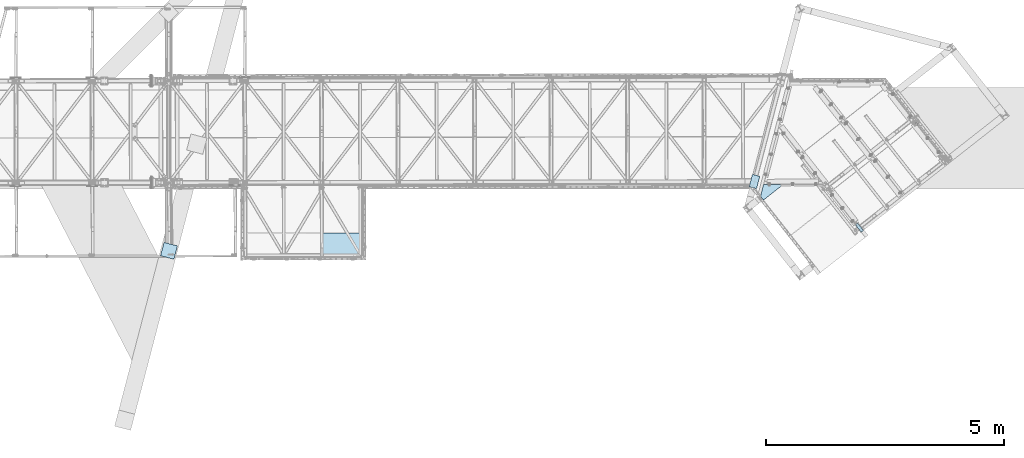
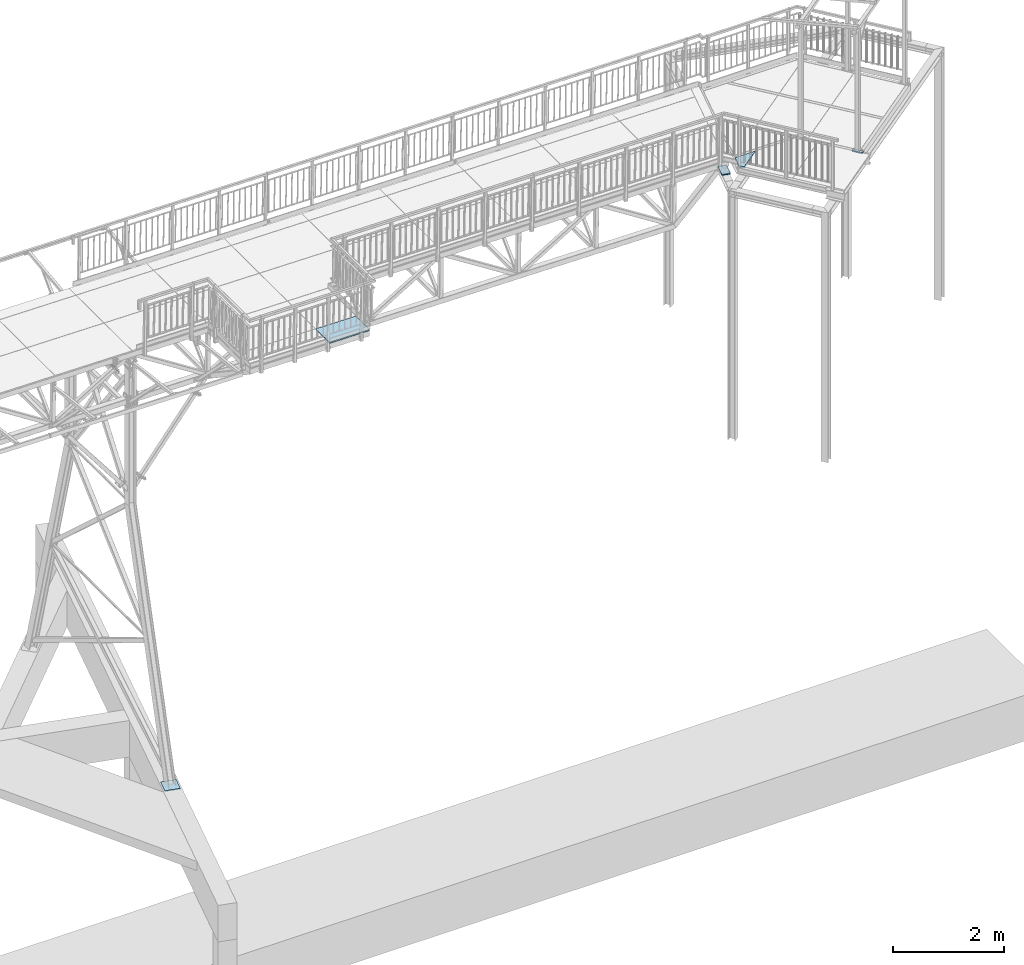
# One storey, part 29 of 169: 10 plates, 10 elements without a shape of their own.
"""IFC2X3 building model written with IfcOpenShell, lengths in millimetres."""

from ifc_helpers import new_model, si_unit, frame, origin_with_axes, place, context, subcontext, project, spatial, polyline, outline, extrude, material, type_object, element, aggregate, save


model = new_model("IFC2X3")

# Units and contexts
model_context = context("Model", 3, precision=1e-05, world=origin_with_axes())
body_context = subcontext(model_context, "Body", "Model", "MODEL_VIEW")
ifc_project = project(units=[si_unit("LENGTHUNIT", "METRE", prefix="MILLI"), si_unit("AREAUNIT", "SQUARE_METRE"), si_unit("VOLUMEUNIT", "CUBIC_METRE"), si_unit("MASSUNIT", "GRAM", prefix="KILO"), si_unit("TIMEUNIT", "SECOND"), si_unit("PLANEANGLEUNIT", "RADIAN"), si_unit("SOLIDANGLEUNIT", "STERADIAN"), si_unit("THERMODYNAMICTEMPERATUREUNIT", "DEGREE_CELSIUS"), si_unit("LUMINOUSINTENSITYUNIT", "LUMEN")], contexts=[model_context])

# Site, building, storey
site_placement = place(None, origin_with_axes())
site = spatial("IfcSite", under=ifc_project, at=site_placement, Name="Undefined", CompositionType="ELEMENT")
building_placement = place(site_placement, origin_with_axes())
building = spatial("IfcBuilding", under=site, at=building_placement, Name="Undefined", CompositionType="ELEMENT")
storey_placement = place(building_placement, origin_with_axes())
storey = spatial("IfcBuildingStorey", under=building, at=storey_placement, Name="Undefined", CompositionType="ELEMENT", Elevation=0.0)

# Assembly, plate
assembly_1_placement = place(storey_placement, origin_with_axes())
assembly_1 = element("IfcElementAssembly", 1, at=assembly_1_placement, inside=storey, Name="Steel Assembly", AssemblyPlace="NOTDEFINED", PredefinedType="RIGID_FRAME")
ifc_material_1 = material(Name="STEEL/S235")
plate_type_1 = type_object("IfcPlateType", Name="BL10*60", PredefinedType="NOTDEFINED")
plate_1_placement = place(assembly_1_placement, frame((20680.7704150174, -925.177534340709, 13770.4174495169), z_axis=(0.0, 0.0, 1.0), x_axis=(0.786773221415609, 0.617242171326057, 0.0)))
plate_1 = element("IfcPlate", 2, at=plate_1_placement, type_object=plate_type_1, material=ifc_material_1, Name="BLACHA", ObjectType="BL10*60", context=body_context, shape_type="SweptSolid", body=[
    extrude(outline(polyline([(0.0, 0.0), (60.0000000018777, -8.8220986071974e-11), (59.9999999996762, 199.999786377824), (-5.02234288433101e-05, 199.999786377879), (0.0, 0.0)])), frame((-1.81898926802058e-12, -1.18000176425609e-16, -5.00000000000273), z_axis=(0.0, 0.0, 1.0), x_axis=(1.0, 0.0, 0.0)), (0.0, 0.0, 1.0), 10.0),
])
aggregate(assembly_1, [plate_1])

assembly_2_placement = place(storey_placement, origin_with_axes())
assembly_2 = element("IfcElementAssembly", 3, at=assembly_2_placement, inside=storey, Name="Steel Assembly", AssemblyPlace="NOTDEFINED", PredefinedType="RIGID_FRAME")
plate_2_placement = place(assembly_2_placement, frame((20680.7704133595, -925.17753391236, 13780.4174495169), z_axis=(0.0, 0.0, 1.0), x_axis=(0.786773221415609, 0.617242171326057, 0.0)))
plate_2 = element("IfcPlate", 4, at=plate_2_placement, type_object=plate_type_1, material=ifc_material_1, Name="BLACHA", ObjectType="BL10*60", context=body_context, shape_type="SweptSolid", body=[
    extrude(outline(polyline([(0.0, 0.0), (60.0000000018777, -8.8220986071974e-11), (59.9999999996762, 199.999786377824), (-5.02234288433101e-05, 199.999786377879), (0.0, 0.0)])), frame((-1.81898926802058e-12, -1.18000176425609e-16, -5.00000000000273), z_axis=(0.0, 0.0, 1.0), x_axis=(1.0, 0.0, 0.0)), (0.0, 0.0, 1.0), 10.0),
])
aggregate(assembly_2, [plate_2])

assembly_3_placement = place(storey_placement, origin_with_axes())
assembly_3 = element("IfcElementAssembly", 5, at=assembly_3_placement, inside=storey, Name="Steel Assembly", AssemblyPlace="NOTDEFINED", PredefinedType="RIGID_FRAME")
plate_3_placement = place(assembly_3_placement, frame((20680.770411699, -925.177533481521, 13790.4174495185), z_axis=(0.0, 0.0, 1.0), x_axis=(0.786773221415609, 0.617242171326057, 0.0)))
plate_3 = element("IfcPlate", 6, at=plate_3_placement, type_object=plate_type_1, material=ifc_material_1, Name="BLACHA", ObjectType="BL10*60", context=body_context, shape_type="SweptSolid", body=[
    extrude(outline(polyline([(0.0, 0.0), (60.0000000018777, -8.8220986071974e-11), (59.9999999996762, 199.999786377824), (-5.02234288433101e-05, 199.999786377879), (0.0, 0.0)])), frame((-1.81898926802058e-12, -1.18000176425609e-16, -5.00000000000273), z_axis=(0.0, 0.0, 1.0), x_axis=(1.0, 0.0, 0.0)), (0.0, 0.0, 1.0), 10.0),
])
aggregate(assembly_3, [plate_3])

assembly_4_placement = place(storey_placement, origin_with_axes())
assembly_4 = element("IfcElementAssembly", 7, at=assembly_4_placement, inside=storey, Name="Steel Assembly", AssemblyPlace="NOTDEFINED", PredefinedType="RIGID_FRAME")
ifc_material_2 = material(Name="STEEL/S275JR")
plate_type_2 = type_object("IfcPlateType", Name="BL25*490", PredefinedType="NOTDEFINED")
plate_4_placement = place(assembly_4_placement, frame((9349.39376473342, -1437.55332877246, 13907.945455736), z_axis=(0.012713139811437, 2.3750999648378e-05, 0.999919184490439), x_axis=(0.9999174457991, 0.00186469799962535, -0.0127131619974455)))
plate_4 = element("IfcPlate", 8, at=plate_4_placement, type_object=plate_type_2, material=ifc_material_2, Name="KRATA", ObjectType="BL25*490", context=body_context, shape_type="SweptSolid", body=[
    extrude(outline(polyline([(0.0, 0.0), (831.999999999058, 5.40467226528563e-10), (831.999999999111, 490.000000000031), (-1.66255631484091e-09, 489.999999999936), (0.0, 0.0)])), frame((-2.16840434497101e-17, 4.54747358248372e-13, -12.4999999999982), z_axis=(0.0, 0.0, 1.0), x_axis=(1.0, 0.0, 0.0)), (0.0, 0.0, 1.0), 25.0),
])
aggregate(assembly_4, [plate_4])

assembly_5_placement = place(storey_placement, origin_with_axes())
assembly_5 = element("IfcElementAssembly", 9, at=assembly_5_placement, inside=storey, Name="Steel Assembly", AssemblyPlace="NOTDEFINED", PredefinedType="RIGID_FRAME")
plate_type_3 = type_object("IfcPlateType", Name="BL30*258", PredefinedType="NOTDEFINED")
plate_5_placement = place(assembly_5_placement, frame((18563.6256631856, -170.671741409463, 13780.4171914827), z_axis=(0.0, 0.0, 1.0), x_axis=(0.617242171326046, -0.786773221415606, 1.36000016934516e-07)))
plate_5 = element("IfcPlate", 10, at=plate_5_placement, type_object=plate_type_3, material=ifc_material_2, Name="KRATA", ObjectType="BL30*258", context=body_context, shape_type="SweptSolid", body=[
    extrude(outline(polyline([(0.0, 0.0), (101.14288330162, 5.0931703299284e-11), (101.1428833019, 535.99999999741), (-156.729736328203, 206.09602355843), (0.0, 0.0)])), frame((1.81898940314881e-12, 3.72231275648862e-23, -15.0000000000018), z_axis=(0.0, 0.0, 1.0), x_axis=(1.0, 0.0, 0.0)), (0.0, 0.0, 1.0), 30.0),
])
aggregate(assembly_5, [plate_5])

assembly_6_placement = place(storey_placement, origin_with_axes())
assembly_6 = element("IfcElementAssembly", 11, at=assembly_6_placement, inside=storey, Name="Steel Assembly", AssemblyPlace="NOTDEFINED", PredefinedType="RIGID_FRAME")
ifc_material_3 = material(Name="STEEL/S355")
plate_type_4 = type_object("IfcPlateType", Name="BL20*290", PredefinedType="NOTDEFINED")
plate_6_placement = place(assembly_6_placement, frame((5949.03332160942, -1421.37245196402, 5270.41756878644), z_axis=(0.0, 0.0, 1.0), x_axis=(0.967563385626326, -0.252628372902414, 0.0)))
plate_6 = element("IfcPlate", 12, at=plate_6_placement, type_object=plate_type_4, material=ifc_material_3, Name="BLACHA", ObjectType="BL20*290", context=body_context, shape_type="SweptSolid", body=[
    extrude(outline(polyline([(0.0, 0.0), (289.999999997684, -7.36690708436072e-11), (289.999999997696, 290.000000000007), (-3.73734110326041e-09, 289.999999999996), (0.0, 0.0)])), frame((-4.54746113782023e-13, 1.81900675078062e-12, -9.99999999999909), z_axis=(0.0, 0.0, 1.0), x_axis=(1.0, 0.0, 0.0)), (0.0, 0.0, 1.0), 20.0),
])
aggregate(assembly_6, [plate_6])

assembly_7_placement = place(storey_placement, origin_with_axes())
assembly_7 = element("IfcElementAssembly", 13, at=assembly_7_placement, inside=storey, Name="Steel Assembly", AssemblyPlace="NOTDEFINED", PredefinedType="RIGID_FRAME")
plate_type_5 = type_object("IfcPlateType", Name="BL5*160", PredefinedType="NOTDEFINED")
plate_7_placement = place(assembly_7_placement, frame((18325.6061126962, 28.8059344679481, 13552.7063914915), z_axis=(0.0, 0.0, 1.0), x_axis=(0.967563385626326, -0.252628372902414, 0.0)))
plate_7 = element("IfcPlate", 14, at=plate_7_placement, type_object=plate_type_5, material=ifc_material_3, Name="BLACHA", ObjectType="BL5*160", context=body_context, shape_type="SweptSolid", body=[
    extrude(outline(polyline([(0.0, 0.0), (160.000000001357, 1.36424205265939e-10), (160.000000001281, 269.999999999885), (-5.46424416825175e-09, 269.999999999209), (0.0, 0.0)])), frame((6.80888809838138e-19, -2.87858853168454e-21, -2.49999999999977), z_axis=(0.0, 0.0, 1.0), x_axis=(1.0, 0.0, 0.0)), (0.0, 0.0, 1.0), 5.0),
])
aggregate(assembly_7, [plate_7])

assembly_8_placement = place(storey_placement, origin_with_axes())
assembly_8 = element("IfcElementAssembly", 15, at=assembly_8_placement, inside=storey, Name="Steel Assembly", AssemblyPlace="NOTDEFINED", PredefinedType="RIGID_FRAME")
plate_8_placement = place(assembly_8_placement, frame((18325.6061135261, 28.8059340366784, 13547.7063916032), z_axis=(0.0, 0.0, 1.0), x_axis=(0.967563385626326, -0.252628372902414, 0.0)))
plate_8 = element("IfcPlate", 16, at=plate_8_placement, type_object=plate_type_5, material=ifc_material_3, Name="BLACHA", ObjectType="BL5*160", context=body_context, shape_type="SweptSolid", body=[
    extrude(outline(polyline([(0.0, 0.0), (160.000000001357, 1.36424205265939e-10), (160.000000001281, 269.999999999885), (-5.46424416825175e-09, 269.999999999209), (0.0, 0.0)])), frame((6.80888809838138e-19, -2.87858853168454e-21, -2.49999999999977), z_axis=(0.0, 0.0, 1.0), x_axis=(1.0, 0.0, 0.0)), (0.0, 0.0, 1.0), 5.0),
])
aggregate(assembly_8, [plate_8])

assembly_9_placement = place(storey_placement, origin_with_axes())
assembly_9 = element("IfcElementAssembly", 17, at=assembly_9_placement, inside=storey, Name="Steel Assembly", AssemblyPlace="NOTDEFINED", PredefinedType="RIGID_FRAME")
plate_9_placement = place(assembly_9_placement, frame((18325.6061143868, 28.8059336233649, 13542.7063917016), z_axis=(0.0, 0.0, 1.0), x_axis=(0.967563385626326, -0.252628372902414, 0.0)))
plate_9 = element("IfcPlate", 18, at=plate_9_placement, type_object=plate_type_5, material=ifc_material_3, Name="BLACHA", ObjectType="BL5*160", context=body_context, shape_type="SweptSolid", body=[
    extrude(outline(polyline([(0.0, 0.0), (160.000000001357, 1.36424205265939e-10), (160.000000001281, 269.999999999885), (-5.46424416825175e-09, 269.999999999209), (0.0, 0.0)])), frame((6.80888809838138e-19, -2.87858853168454e-21, -2.49999999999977), z_axis=(0.0, 0.0, 1.0), x_axis=(1.0, 0.0, 0.0)), (0.0, 0.0, 1.0), 5.0),
])
aggregate(assembly_9, [plate_9])

assembly_10_placement = place(storey_placement, origin_with_axes())
assembly_10 = element("IfcElementAssembly", 19, at=assembly_10_placement, inside=storey, Name="Steel Assembly", AssemblyPlace="NOTDEFINED", PredefinedType="RIGID_FRAME")
plate_type_6 = type_object("IfcPlateType", Name="BL15*160", PredefinedType="NOTDEFINED")
plate_10_placement = place(assembly_10_placement, frame((18325.6061086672, 28.8059364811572, 13562.7063909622), z_axis=(0.0, 0.0, 1.0), x_axis=(0.967563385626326, -0.252628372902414, 0.0)))
plate_10 = element("IfcPlate", 20, at=plate_10_placement, type_object=plate_type_6, material=ifc_material_3, Name="BLACHA", ObjectType="BL15*160", context=body_context, shape_type="SweptSolid", body=[
    extrude(outline(polyline([(0.0, 0.0), (160.000000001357, 1.36424205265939e-10), (160.000000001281, 269.999999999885), (-5.46424416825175e-09, 269.999999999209), (0.0, 0.0)])), frame((0.0, -1.24077091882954e-23, -7.49999999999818), z_axis=(0.0, 0.0, 1.0), x_axis=(1.0, 0.0, 0.0)), (0.0, 0.0, 1.0), 15.0),
])
aggregate(assembly_10, [plate_10])

save(model, "model.ifc")
